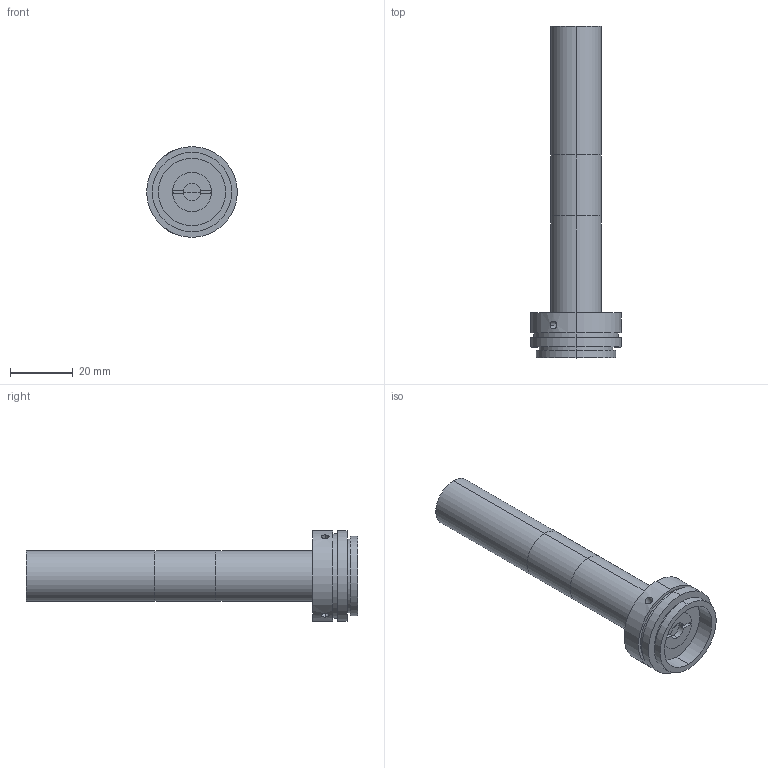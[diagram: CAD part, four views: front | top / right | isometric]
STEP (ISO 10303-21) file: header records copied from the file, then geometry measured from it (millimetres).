
FILE_DESCRIPTION (( 'STEP AP203' ), '1' );
FILE_NAME ('XF-T4X65.STEP', '2015-07-31T05:46:24', ( 'Lxtx999.CoM' ), ( 'Lxtx999.CoM' ), 'SwSTEP 2.0', 'SolidWorks 2014', '' );
FILE_SCHEMA (( 'CONFIG_CONTROL_DESIGN' ));
Length unit declared in the file: millimetre
Products named in the file (1): XF-T4X65
Bounding box: 29 x 106.15 x 29 mm (x, y, z)
Surface area: 9410.4 mm2 (no closed solid volume)
Topology: 0 solids, 11 shells, 73 faces, 188 edges, 128 vertices
Faces by surface type: cylinder 40, plane 27, sphere 4, cone 2
Entity records: 2545 total; most frequent: CARTESIAN_POINT 618, DIRECTION 426, ORIENTED_EDGE 330, EDGE_CURVE 188, AXIS2_PLACEMENT_3D 176, VERTEX_POINT 128, CIRCLE 102, EDGE_LOOP 90
